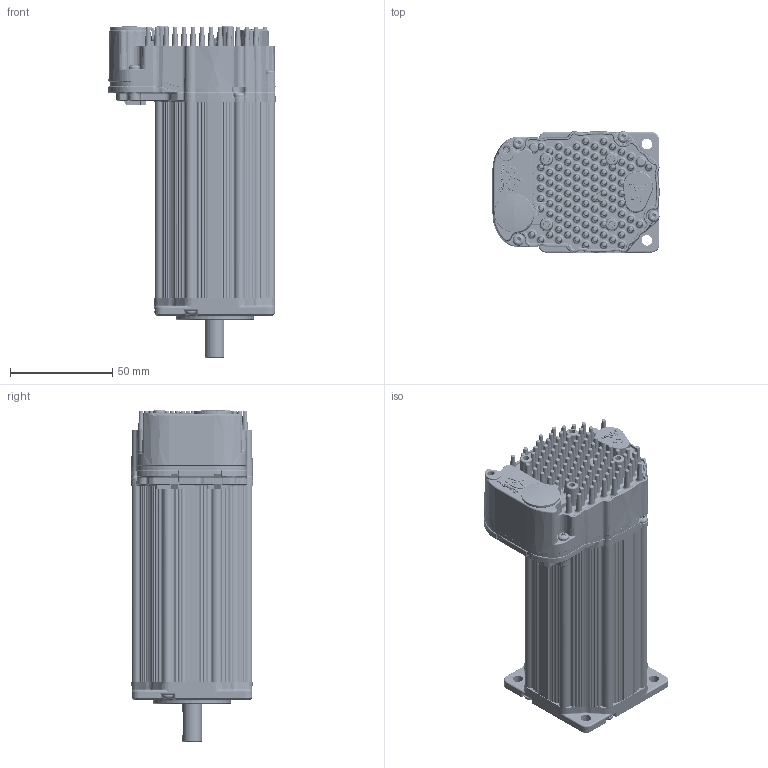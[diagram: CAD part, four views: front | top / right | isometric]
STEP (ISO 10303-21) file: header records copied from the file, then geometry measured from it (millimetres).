
FILE_DESCRIPTION (( 'STEP AP203' ), '1' );
FILE_NAME ('CPM-_ _ _ _ -234x_-LS.STEP', '2022-06-24T12:33:09', ( '' ), ( '' ), 'SwSTEP 2.0', 'SolidWorks 2020', '' );
FILE_SCHEMA (( 'CONFIG_CONTROL_DESIGN' ));
Products named in the file (1): CPM-_ _ _ _ -234x_-LS
Bounding box: 81.98 x 59.62 x 162.7 mm (x, y, z)
Volume: 239787 mm3; surface area: 83985 mm2
Topology: 1 solids, 32 shells, 7358 faces, 17809 edges, 10488 vertices
Faces by surface type: cylinder 2953, bspline 1490, torus 1177, cone 866, plane 827, sphere 45
Entity records: 508220 total; most frequent: CARTESIAN_POINT 355401, ORIENTED_EDGE 35254, DIRECTION 28504, EDGE_CURVE 17627, AXIS2_PLACEMENT_3D 11763, VERTEX_POINT 10484, EDGE_LOOP 7561, ADVANCED_FACE 7358
